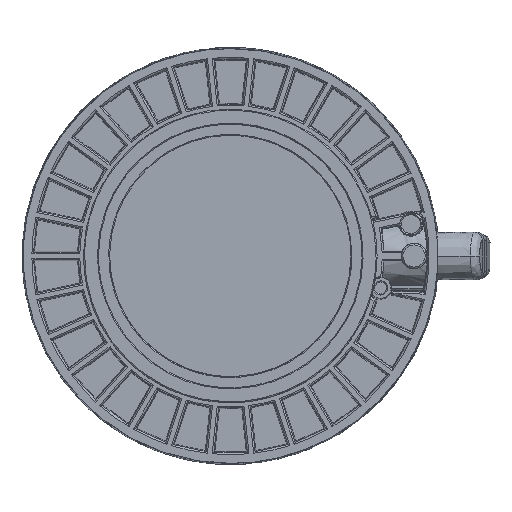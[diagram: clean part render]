
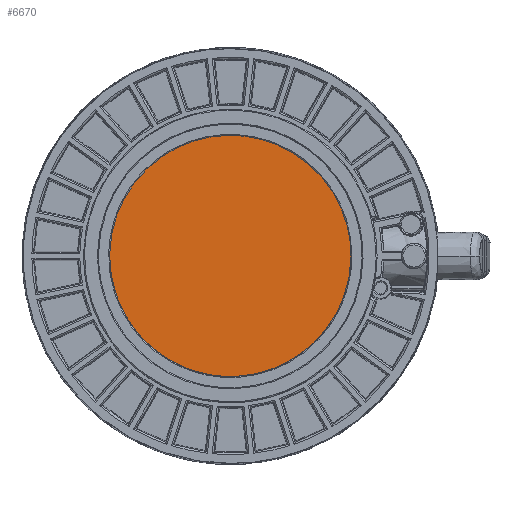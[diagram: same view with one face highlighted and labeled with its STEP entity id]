
A CAD part, front view. The second image highlights one B-rep face of the part: STEP entity #6670.
In plain terms, the highlighted planar face has unit normal (0, -1, 0).
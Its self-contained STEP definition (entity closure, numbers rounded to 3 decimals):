
#6670=ADVANCED_FACE('',(#9085),#41695,.T.);
#9085=FACE_OUTER_BOUND('',#11646,.T.);
#11646=EDGE_LOOP('',(#19281,#19282));
#19281=ORIENTED_EDGE('',*,*,#27923,.F.);
#19282=ORIENTED_EDGE('',*,*,#27924,.F.);
#27923=EDGE_CURVE('',#37774,#37773,#33168,.T.);
#27924=EDGE_CURVE('',#37773,#37774,#33169,.T.);
#33168=(
BOUNDED_CURVE()
B_SPLINE_CURVE(2,(#101858,#101859,#101860,#101861,#101862),
 .UNSPECIFIED.,.F.,.F.)
B_SPLINE_CURVE_WITH_KNOTS((3,2,3),(-255.726,-191.794,
-127.863),.UNSPECIFIED.)
CURVE()
GEOMETRIC_REPRESENTATION_ITEM()
RATIONAL_B_SPLINE_CURVE((1.,0.707,1.,0.707,1.))
REPRESENTATION_ITEM('')
);
#33169=(
BOUNDED_CURVE()
B_SPLINE_CURVE(2,(#101863,#101864,#101865,#101866,#101867),
 .UNSPECIFIED.,.F.,.F.)
B_SPLINE_CURVE_WITH_KNOTS((3,2,3),(-127.863,-63.931,
0.),.UNSPECIFIED.)
CURVE()
GEOMETRIC_REPRESENTATION_ITEM()
RATIONAL_B_SPLINE_CURVE((1.,0.707,1.,0.707,1.))
REPRESENTATION_ITEM('')
);
#37773=VERTEX_POINT('',#101834);
#37774=VERTEX_POINT('',#101835);
#41695=PLANE('',#44236);
#44236=AXIS2_PLACEMENT_3D('',#101777,#44761,$);
#44761=DIRECTION('',(0.,-1.,0.));
#101777=CARTESIAN_POINT('',(-48.841,-177.439,48.841));
#101834=CARTESIAN_POINT('',(-40.7,-177.439,0.));
#101835=CARTESIAN_POINT('',(40.7,-177.439,0.));
#101858=CARTESIAN_POINT('',(40.7,-177.439,0.));
#101859=CARTESIAN_POINT('',(40.7,-177.439,-40.7));
#101860=CARTESIAN_POINT('',(0.,-177.439,-40.7));
#101861=CARTESIAN_POINT('',(-40.7,-177.439,-40.7));
#101862=CARTESIAN_POINT('',(-40.7,-177.439,0.));
#101863=CARTESIAN_POINT('',(-40.7,-177.439,0.));
#101864=CARTESIAN_POINT('',(-40.7,-177.439,40.7));
#101865=CARTESIAN_POINT('',(0.,-177.439,40.7));
#101866=CARTESIAN_POINT('',(40.7,-177.439,40.7));
#101867=CARTESIAN_POINT('',(40.7,-177.439,0.));
